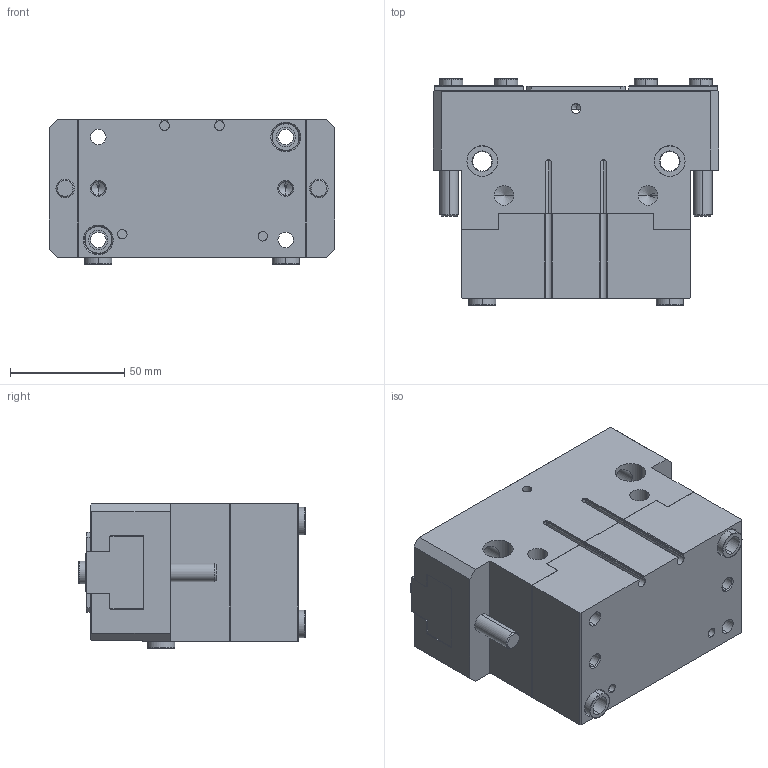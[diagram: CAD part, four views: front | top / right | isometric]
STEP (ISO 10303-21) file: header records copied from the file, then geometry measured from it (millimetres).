
FILE_DESCRIPTION (( 'STEP AP203' ), '1' );
FILE_NAME ('OPP-125-C1-MC&MA-原始檔-組合-W106.04.20.STEP', '2017-04-20T00:44:24', ( 'DanyaoCAD' ), ( '' ), 'SwSTEP 2.0', 'SolidWorks 2016', '' );
FILE_SCHEMA (( 'CONFIG_CONTROL_DESIGN' ));
Length unit declared in the file: millimetre
Products named in the file (7): Boccola _2; Griffa; Corpo; Fondello; Coperchio; OPP-125-C1-MC&MA-原始檔-組合-W106.04.20; Boccola _0
Assembly tree (13 placements, depth 2):
  OPP-125-C1-MC&MA-原始檔-組合-W106.04.20
    Boccola _0  x4
    Boccola _2  x4
    Griffa  x2
    Corpo
    Fondello
    Coperchio
Bounding box: 125 x 99.1 x 63.1 mm (x, y, z)
Volume: 557173 mm3; surface area: 107397.3 mm2
Topology: 13 solids, 13 shells, 1234 faces, 3344 edges, 2170 vertices
Faces by surface type: bspline 672, plane 314, cylinder 164, cone 84
Entity records: 53583 total; most frequent: CARTESIAN_POINT 28253, ORIENTED_EDGE 6168, EDGE_CURVE 3084, DIRECTION 3048, VERTEX_POINT 2034, LINE 1458, VECTOR 1458, B_SPLINE_CURVE_WITH_KNOTS 1321
